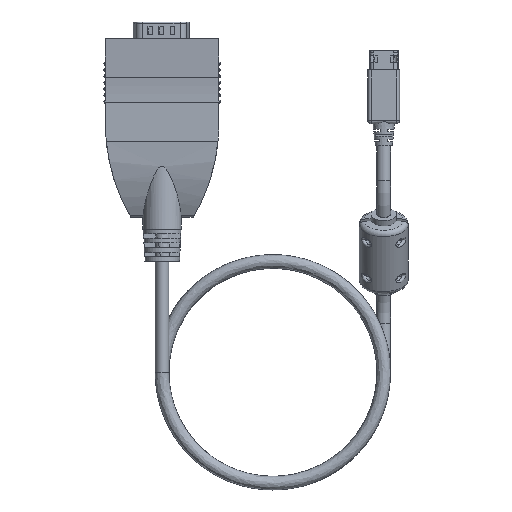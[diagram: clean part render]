
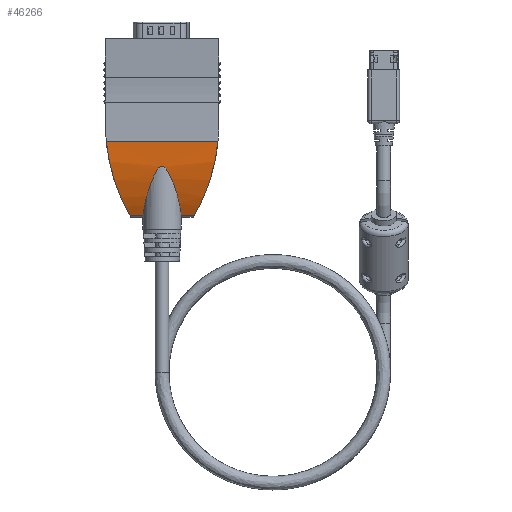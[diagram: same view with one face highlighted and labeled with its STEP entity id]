
A CAD part, front view. The second image highlights one B-rep face of the part: STEP entity #46266.
In plain terms, the highlighted cylindrical face has radius 50.281 mm (diameter 100.563 mm), a partial arc.
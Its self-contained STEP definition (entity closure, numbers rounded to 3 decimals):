
#2207=B_SPLINE_CURVE_WITH_KNOTS('',3,(#93171,#93172,#93173,#93174,#93175,
#93176,#93177,#93178,#93179,#93180,#93181,#93182,#93183,#93184,#93185,#93186,
#93187,#93188,#93189,#93190,#93191,#93192,#93193,#93194,#93195,#93196,#93197,
#93198,#93199,#93200,#93201),.UNSPECIFIED.,.F.,.F.,(4,2,2,2,2,2,2,3,2,2,
2,2,2,2,4),(-1.71,-1.248,-0.605,-0.38,
-0.155,-0.078,-0.039,0.,0.039,
0.078,0.155,0.38,0.605,
1.248,1.71),.UNSPECIFIED.);
#2223=B_SPLINE_CURVE_WITH_KNOTS('',3,(#93516,#93517,#93518,#93519,#93520,
#93521,#93522,#93523,#93524,#93525,#93526,#93527),.UNSPECIFIED.,.F.,.F.,
(4,2,2,2,2,4),(6.398,6.56,7.149,7.739,
8.472,8.841),.UNSPECIFIED.);
#2224=B_SPLINE_CURVE_WITH_KNOTS('',3,(#93531,#93532,#93533,#93534,#93535,
#93536,#93537,#93538,#93539,#93540,#93541,#93542),.UNSPECIFIED.,.F.,.F.,
(4,2,2,2,2,4),(6.398,6.56,7.149,7.739,
8.472,8.841),.UNSPECIFIED.);
#4575=FACE_OUTER_BOUND('',#7185,.T.);
#7185=EDGE_LOOP('',(#42408,#42409,#42410,#42411,#42412,#42413));
#13952=LINE('',#93514,#17084);
#13953=LINE('',#93529,#17085);
#13954=LINE('',#93543,#17086);
#17084=VECTOR('',#64020,10.);
#17085=VECTOR('',#64021,10.);
#17086=VECTOR('',#64022,10.);
#21696=VERTEX_POINT('',#93169);
#21697=VERTEX_POINT('',#93170);
#21730=VERTEX_POINT('',#93513);
#21731=VERTEX_POINT('',#93515);
#21732=VERTEX_POINT('',#93528);
#21733=VERTEX_POINT('',#93530);
#28631=EDGE_CURVE('',#21696,#21697,#2207,.F.);
#28695=EDGE_CURVE('',#21697,#21730,#13952,.T.);
#28696=EDGE_CURVE('',#21731,#21730,#2223,.T.);
#28697=EDGE_CURVE('',#21732,#21731,#13953,.T.);
#28698=EDGE_CURVE('',#21732,#21733,#2224,.T.);
#28699=EDGE_CURVE('',#21696,#21733,#13954,.T.);
#42408=ORIENTED_EDGE('',*,*,#28631,.T.);
#42409=ORIENTED_EDGE('',*,*,#28695,.T.);
#42410=ORIENTED_EDGE('',*,*,#28696,.F.);
#42411=ORIENTED_EDGE('',*,*,#28697,.F.);
#42412=ORIENTED_EDGE('',*,*,#28698,.T.);
#42413=ORIENTED_EDGE('',*,*,#28699,.F.);
#43873=CYLINDRICAL_SURFACE('',#51234,50.281);
#46266=ADVANCED_FACE('',(#4575),#43873,.T.);
#51234=AXIS2_PLACEMENT_3D('',#93512,#64018,#64019);
#64018=DIRECTION('center_axis',(1.,0.,0.));
#64019=DIRECTION('ref_axis',(0.,-1.,0.));
#64020=DIRECTION('',(1.,0.,0.));
#64021=DIRECTION('',(1.,0.,0.));
#64022=DIRECTION('',(-1.,0.,0.));
#93169=CARTESIAN_POINT('',(-5.996,-0.885,-48.916));
#93170=CARTESIAN_POINT('',(5.996,-0.885,-48.916));
#93171=CARTESIAN_POINT('Ctrl Pts',(5.996,-0.885,-48.916));
#93172=CARTESIAN_POINT('Ctrl Pts',(5.886,-1.63,-47.5));
#93173=CARTESIAN_POINT('Ctrl Pts',(5.639,-2.332,-45.996));
#93174=CARTESIAN_POINT('Ctrl Pts',(4.815,-3.812,-42.367));
#93175=CARTESIAN_POINT('Ctrl Pts',(4.153,-4.508,-40.224));
#93176=CARTESIAN_POINT('Ctrl Pts',(3.137,-5.196,-37.606));
#93177=CARTESIAN_POINT('Ctrl Pts',(2.828,-5.375,-36.863));
#93178=CARTESIAN_POINT('Ctrl Pts',(2.129,-5.688,-35.417));
#93179=CARTESIAN_POINT('Ctrl Pts',(1.749,-5.823,-34.708));
#93180=CARTESIAN_POINT('Ctrl Pts',(1.122,-5.959,-33.929));
#93181=CARTESIAN_POINT('Ctrl Pts',(0.931,-5.993,
-33.723));
#93182=CARTESIAN_POINT('Ctrl Pts',(0.607,-6.032,
-33.486));
#93183=CARTESIAN_POINT('Ctrl Pts',(0.493,-6.042,
-33.42));
#93184=CARTESIAN_POINT('Ctrl Pts',(0.254,-6.057,
-33.327));
#93185=CARTESIAN_POINT('Ctrl Pts',(0.129,-6.061,
-33.3));
#93186=CARTESIAN_POINT('Ctrl Pts',(0.,-6.061,-33.3));
#93187=CARTESIAN_POINT('Ctrl Pts',(-0.129,-6.061,
-33.3));
#93188=CARTESIAN_POINT('Ctrl Pts',(-0.254,-6.057,
-33.327));
#93189=CARTESIAN_POINT('Ctrl Pts',(-0.493,-6.042,
-33.42));
#93190=CARTESIAN_POINT('Ctrl Pts',(-0.607,-6.032,
-33.486));
#93191=CARTESIAN_POINT('Ctrl Pts',(-0.931,-5.993,
-33.723));
#93192=CARTESIAN_POINT('Ctrl Pts',(-1.122,-5.959,
-33.929));
#93193=CARTESIAN_POINT('Ctrl Pts',(-1.749,-5.823,
-34.708));
#93194=CARTESIAN_POINT('Ctrl Pts',(-2.129,-5.688,
-35.417));
#93195=CARTESIAN_POINT('Ctrl Pts',(-2.828,-5.375,-36.863));
#93196=CARTESIAN_POINT('Ctrl Pts',(-3.137,-5.196,
-37.606));
#93197=CARTESIAN_POINT('Ctrl Pts',(-4.153,-4.508,
-40.224));
#93198=CARTESIAN_POINT('Ctrl Pts',(-4.815,-3.812,
-42.367));
#93199=CARTESIAN_POINT('Ctrl Pts',(-5.639,-2.332,
-45.996));
#93200=CARTESIAN_POINT('Ctrl Pts',(-5.886,-1.63,
-47.5));
#93201=CARTESIAN_POINT('Ctrl Pts',(-5.996,-0.885,
-48.916));
#93512=CARTESIAN_POINT('Origin',(0.,43.611,-25.5));
#93513=CARTESIAN_POINT('',(10.113,-0.885,-48.916));
#93514=CARTESIAN_POINT('',(0.,-0.885,-48.916));
#93515=CARTESIAN_POINT('',(17.617,-6.67,-25.5));
#93516=CARTESIAN_POINT('Ctrl Pts',(17.617,-6.67,-25.5));
#93517=CARTESIAN_POINT('Ctrl Pts',(17.562,-6.67,-26.078));
#93518=CARTESIAN_POINT('Ctrl Pts',(17.498,-6.66,-26.657));
#93519=CARTESIAN_POINT('Ctrl Pts',(17.16,-6.568,-29.328));
#93520=CARTESIAN_POINT('Ctrl Pts',(16.779,-6.363,-31.406));
#93521=CARTESIAN_POINT('Ctrl Pts',(15.824,-5.726,-35.406));
#93522=CARTESIAN_POINT('Ctrl Pts',(15.25,-5.294,-37.328));
#93523=CARTESIAN_POINT('Ctrl Pts',(13.838,-4.163,-41.349));
#93524=CARTESIAN_POINT('Ctrl Pts',(12.9,-3.368,-43.574));
#93525=CARTESIAN_POINT('Ctrl Pts',(11.289,-1.946,-46.81));
#93526=CARTESIAN_POINT('Ctrl Pts',(10.715,-1.432,-47.876));
#93527=CARTESIAN_POINT('Ctrl Pts',(10.113,-0.885,-48.916));
#93528=CARTESIAN_POINT('',(-17.617,-6.67,-25.5));
#93529=CARTESIAN_POINT('',(0.,-6.67,-25.5));
#93530=CARTESIAN_POINT('',(-10.113,-0.885,-48.916));
#93531=CARTESIAN_POINT('Ctrl Pts',(-17.617,-6.67,-25.5));
#93532=CARTESIAN_POINT('Ctrl Pts',(-17.562,-6.67,-26.078));
#93533=CARTESIAN_POINT('Ctrl Pts',(-17.498,-6.66,
-26.657));
#93534=CARTESIAN_POINT('Ctrl Pts',(-17.16,-6.568,
-29.328));
#93535=CARTESIAN_POINT('Ctrl Pts',(-16.779,-6.363,
-31.406));
#93536=CARTESIAN_POINT('Ctrl Pts',(-15.824,-5.726,-35.406));
#93537=CARTESIAN_POINT('Ctrl Pts',(-15.25,-5.294,
-37.328));
#93538=CARTESIAN_POINT('Ctrl Pts',(-13.838,-4.163,
-41.349));
#93539=CARTESIAN_POINT('Ctrl Pts',(-12.9,-3.368,
-43.574));
#93540=CARTESIAN_POINT('Ctrl Pts',(-11.289,-1.946,
-46.81));
#93541=CARTESIAN_POINT('Ctrl Pts',(-10.715,-1.432,-47.876));
#93542=CARTESIAN_POINT('Ctrl Pts',(-10.113,-0.885,-48.916));
#93543=CARTESIAN_POINT('',(0.,-0.885,-48.916));
